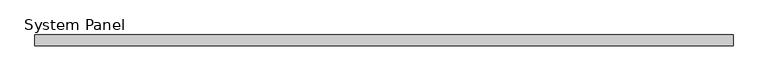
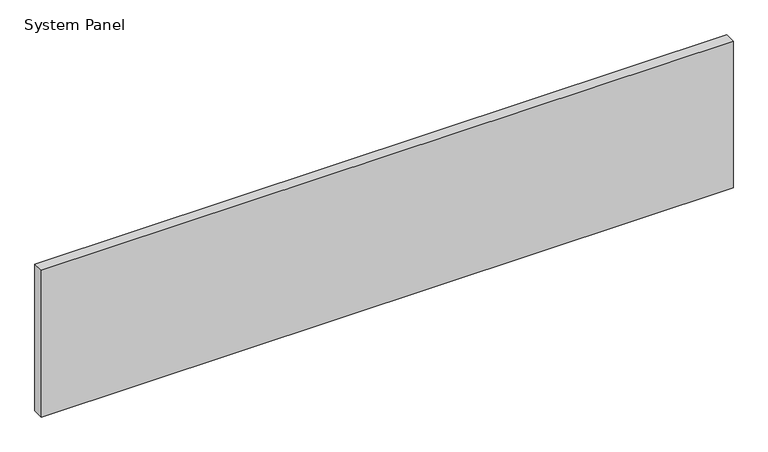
"""IFC4 building model written with IfcOpenShell, lengths in millimetres: plate geometry, System Panel : Glazed - ACMP (AL-1)."""

from ifc_helpers import new_model, si_unit, origin, origin_with_axes, place, context, project, spatial, polyline, outline, extrude, source, transform, mapped, element, save


def system_panel_c1e2d80d(model_context):
    return source(origin(), model_context, "Body", "SweptSolid", [
        extrude(outline(polyline([(806.8516712, 0.0), (-806.8516712, 0.0), (-806.8516712, 25.4), (806.8516712, 25.4), (806.8516712, 0.0)])), origin_with_axes(), (0.0, 0.0, 1.0), 361.95),
    ])


if __name__ == "__main__":
    model = new_model("IFC4")
    model_context = context("Model", 3, world=origin())
    ifc_project = project(units=[si_unit("LENGTHUNIT", "METRE", prefix="MILLI")], contexts=[model_context])
    site = spatial("IfcSite", under=ifc_project)
    building = spatial("IfcBuilding", under=site)
    placement = place(None, origin())
    system_panel_shape = system_panel_c1e2d80d(model_context)
    element("IfcPlate", 1, ObjectType="System Panel : Glazed - ACMP (AL-1)", at=placement, inside=building, context=model_context, shape_type="MappedRepresentation", body=[
        mapped(system_panel_shape, transform((0.0, 0.0, 0.0), x_axis=(1.0, 0.0, 0.0), y_axis=(0.0, 1.0, 0.0), z_axis=(0.0, 0.0, 1.0))),
    ])
    save(model, "model.ifc")
